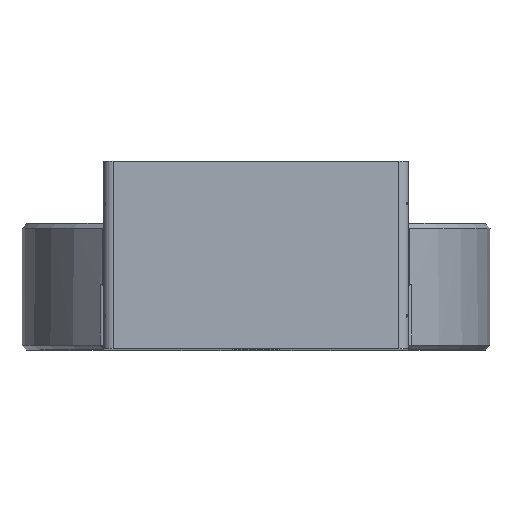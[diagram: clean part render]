
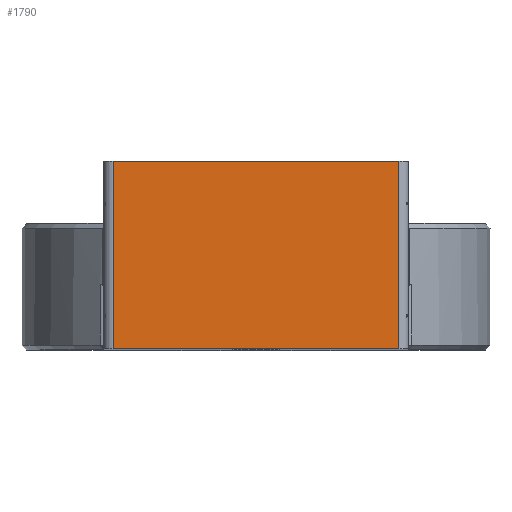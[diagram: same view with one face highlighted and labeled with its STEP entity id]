
A CAD part, top view. The second image highlights one B-rep face of the part: STEP entity #1790.
In plain terms, the highlighted planar face has unit normal (0, 0, 1).
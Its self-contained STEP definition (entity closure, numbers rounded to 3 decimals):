
#84 = ORIENTED_EDGE ( 'NONE', *, *, #1455, .F. ) ;
#301 = VERTEX_POINT ( 'NONE', #1527 ) ;
#536 = LINE ( 'NONE', #3308, #4050 ) ;
#1455 = EDGE_CURVE ( 'NONE', #301, #1926, #3192, .T. ) ;
#1527 = CARTESIAN_POINT ( 'NONE',  ( 15.25, 11.274, 89.2 ) ) ;
#1530 = VECTOR ( 'NONE', #2091, 1000. ) ;
#1790 = ADVANCED_FACE ( 'NONE', ( #2692 ), #4922, .T. ) ;
#1926 = VERTEX_POINT ( 'NONE', #6118 ) ;
#2091 = DIRECTION ( 'NONE',  ( 0., -1., 0. ) ) ;
#2348 = EDGE_CURVE ( 'NONE', #1926, #3219, #5727, .T. ) ;
#2692 = FACE_OUTER_BOUND ( 'NONE', #4218, .T. ) ;
#2888 = CARTESIAN_POINT ( 'NONE',  ( 0., -8.726, 89.2 ) ) ;
#2932 = DIRECTION ( 'NONE',  ( -1., 0., 0. ) ) ;
#3072 = VECTOR ( 'NONE', #5426, 1000. ) ;
#3084 = EDGE_CURVE ( 'NONE', #301, #4310, #536, .T. ) ;
#3192 = LINE ( 'NONE', #4175, #3072 ) ;
#3219 = VERTEX_POINT ( 'NONE', #4635 ) ;
#3308 = CARTESIAN_POINT ( 'NONE',  ( 0., 11.274, 89.2 ) ) ;
#3324 = ORIENTED_EDGE ( 'NONE', *, *, #2348, .F. ) ;
#3671 = EDGE_CURVE ( 'NONE', #4310, #3219, #4854, .T. ) ;
#4050 = VECTOR ( 'NONE', #6766, 1000. ) ;
#4175 = CARTESIAN_POINT ( 'NONE',  ( 15.25, 88.451, 89.2 ) ) ;
#4195 = CARTESIAN_POINT ( 'NONE',  ( 0., 88.451, 89.2 ) ) ;
#4218 = EDGE_LOOP ( 'NONE', ( #6157, #3324, #84, #5011 ) ) ;
#4310 = VERTEX_POINT ( 'NONE', #6970 ) ;
#4635 = CARTESIAN_POINT ( 'NONE',  ( -15.25, -8.726, 89.2 ) ) ;
#4702 = AXIS2_PLACEMENT_3D ( 'NONE', #4195, #6448, #5522 ) ;
#4854 = LINE ( 'NONE', #7111, #1530 ) ;
#4922 = PLANE ( 'NONE',  #4702 ) ;
#5011 = ORIENTED_EDGE ( 'NONE', *, *, #3084, .T. ) ;
#5426 = DIRECTION ( 'NONE',  ( 0., -1., 0. ) ) ;
#5522 = DIRECTION ( 'NONE',  ( 1., 0., 0. ) ) ;
#5727 = LINE ( 'NONE', #2888, #5917 ) ;
#5917 = VECTOR ( 'NONE', #2932, 1000. ) ;
#6118 = CARTESIAN_POINT ( 'NONE',  ( 15.25, -8.726, 89.2 ) ) ;
#6157 = ORIENTED_EDGE ( 'NONE', *, *, #3671, .T. ) ;
#6448 = DIRECTION ( 'NONE',  ( 0., 0., 1. ) ) ;
#6766 = DIRECTION ( 'NONE',  ( -1., 0., 0. ) ) ;
#6970 = CARTESIAN_POINT ( 'NONE',  ( -15.25, 11.274, 89.2 ) ) ;
#7111 = CARTESIAN_POINT ( 'NONE',  ( -15.25, 88.451, 89.2 ) ) ;
